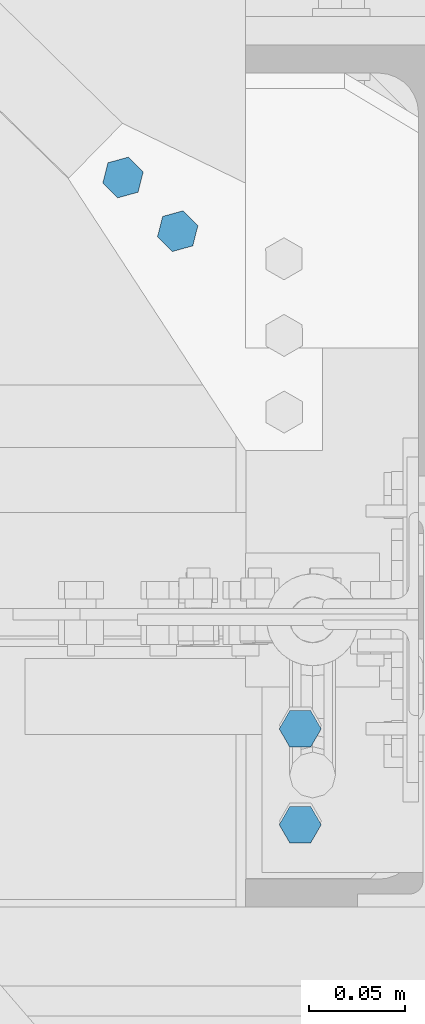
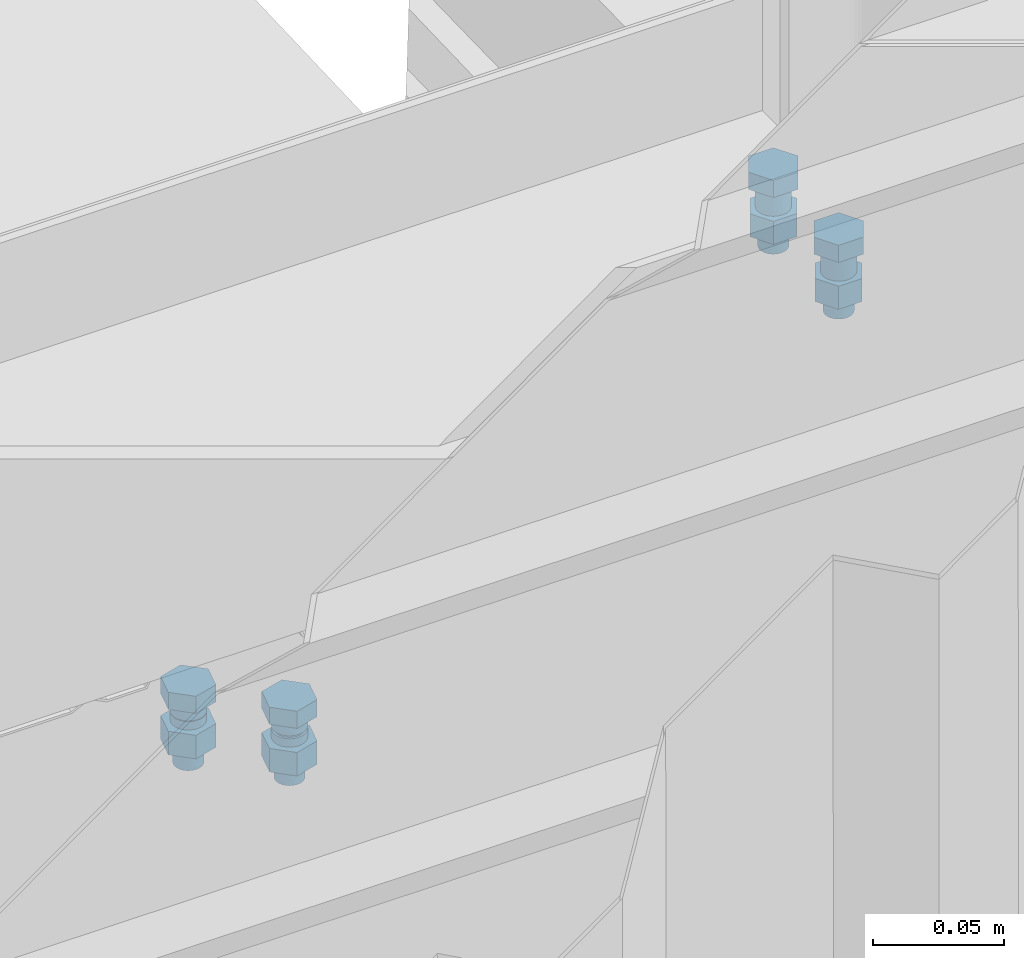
# One storey, part 20 of 21: 3 mechanical fasteners.
"""IFC2X3 building model written with IfcOpenShell, lengths in millimetres."""

from ifc_helpers import new_model, si_unit, frame, origin_with_axes, place, context, project, spatial, faceted_brep, element, save


model = new_model("IFC2X3")

# Units and contexts
model_context_1 = context("Model", 3, precision=1e-05, world=origin_with_axes(), identifier="Body")
model_context_2 = context("Model", 3, precision=1e-05, world=origin_with_axes())
ifc_project = project(units=[si_unit("LENGTHUNIT", "METRE", prefix="MILLI"), si_unit("AREAUNIT", "SQUARE_METRE"), si_unit("VOLUMEUNIT", "CUBIC_METRE"), si_unit("MASSUNIT", "GRAM", prefix="KILO"), si_unit("TIMEUNIT", "SECOND"), si_unit("PLANEANGLEUNIT", "RADIAN"), si_unit("SOLIDANGLEUNIT", "STERADIAN"), si_unit("THERMODYNAMICTEMPERATUREUNIT", "DEGREE_CELSIUS"), si_unit("LUMINOUSINTENSITYUNIT", "LUMEN")], contexts=[model_context_1, model_context_2])

# Site, building, storey
site_placement = place(None, origin_with_axes())
site = spatial("IfcSite", under=ifc_project, at=site_placement, Name="Undefined", CompositionType="ELEMENT")
building_placement = place(site_placement, origin_with_axes())
building = spatial("IfcBuilding", under=site, at=building_placement, Name="Undefined", CompositionType="ELEMENT")
storey_placement = place(building_placement, origin_with_axes())
storey = spatial("IfcBuildingStorey", under=building, at=storey_placement, Name="Undefined", CompositionType="ELEMENT")

# Mechanical fasteners
mechanical_fastener_1_placement = place(storey_placement, frame((-66.45069, -156.90818, 5894.0172), z_axis=(-6.2954093e-15, 1.0, 5.4700004e-05), x_axis=(1.0, 0.0, 0.0)))
element("IfcMechanicalFastener", 1, at=mechanical_fastener_1_placement, inside=storey, Name="Bolt assembly", NominalDiameter=12.0, NominalLength=30.0, context=model_context_1, shape_type="Brep", body=[
    faceted_brep([(10.969655, -17.533323, -25.0), (5.4848276, -17.533323, -15.5), (-5.4848276, -17.533323, -15.5), (-10.969655, -17.533323, -25.0), (-5.4848276, -17.533323, -34.5), (5.4848276, -17.533323, -34.5), (5.4848276, -9.5333232, -34.5), (-5.4848276, -9.5333232, -34.5), (-10.969655, -9.5333232, -25.0), (-5.4848276, -9.5333232, -15.5), (5.4848276, -9.5333232, -15.5), (10.969655, -9.5333232, -25.0), (6.0, -9.5333232, -25.0), (5.795555, -9.5333232, -23.447086), (5.1961524, -9.5333232, -22.0), (4.2426407, -9.5333232, -20.757359), (3.0, -9.5333232, -19.803848), (1.5529143, -9.5333232, -19.204445), (-6.2180159e-13, -9.5333232, -19.0), (-1.5529143, -9.5333232, -19.204445), (-3.0, -9.5333232, -19.803848), (-4.2426407, -9.5333232, -20.757359), (-5.1961524, -9.5333232, -22.0), (-5.795555, -9.5333232, -23.447086), (-6.0, -9.5333232, -25.0), (-5.795555, -9.5333232, -26.552914), (-5.1961524, -9.5333232, -28.0), (-4.2426407, -9.5333232, -29.242641), (-3.0, -9.5333232, -30.196152), (-1.5529143, -9.5333232, -30.795555), (1.8587434e-12, -9.5333232, -31.0), (1.5529143, -9.5333232, -30.795555), (3.0, -9.5333232, -30.196152), (4.2426407, -9.5333232, -29.242641), (5.1961524, -9.5333232, -28.0), (5.795555, -9.5333232, -26.552914), (5.795555, 20.466677, -26.552914), (5.1961524, 20.466677, -28.0), (4.2426407, 20.466677, -29.242641), (3.0, 20.466677, -30.196152), (1.5529143, 20.466677, -30.795555), (1.8587434e-12, 20.466677, -31.0), (-1.5529143, 20.466677, -30.795555), (-3.0, 20.466677, -30.196152), (-4.2426407, 20.466677, -29.242641), (-5.1961524, 20.466677, -28.0), (-5.795555, 20.466677, -26.552914), (-6.0, 20.466677, -25.0), (-5.795555, 20.466677, -23.447086), (-5.1961524, 20.466677, -22.0), (-4.2426407, 20.466677, -20.757359), (-3.0, 20.466677, -19.803848), (-1.5529143, 20.466677, -19.204445), (-6.2180159e-13, 20.466677, -19.0), (1.5529143, 20.466677, -19.204445), (3.0, 20.466677, -19.803848), (4.2426407, 20.466677, -20.757359), (5.1961524, 20.466677, -22.0), (5.795555, 20.466677, -23.447086), (6.0, 20.466677, -25.0), (10.392305, 1.9994325, -25.0), (5.1961524, 1.9994325, -16.0), (-5.1961524, 1.9994325, -16.0), (-10.392305, 1.9994325, -25.0), (-5.1961524, 1.9994325, -34.0), (5.1961524, 1.9994325, -34.0), (5.1961524, 12.799433, -34.0), (-5.1961524, 12.799433, -34.0), (-10.392305, 12.799433, -25.0), (-5.1961524, 12.799433, -16.0), (5.1961524, 12.799433, -16.0), (10.392305, 12.799433, -25.0), (10.969655, -17.533323, 25.0), (5.4848276, -17.533323, 34.5), (-5.4848276, -17.533323, 34.5), (-10.969655, -17.533323, 25.0), (-5.4848276, -17.533323, 15.5), (5.4848276, -17.533323, 15.5), (5.4848276, -9.5333232, 15.5), (-5.4848276, -9.5333232, 15.5), (-10.969655, -9.5333232, 25.0), (-5.4848276, -9.5333232, 34.5), (5.4848276, -9.5333232, 34.5), (10.969655, -9.5333232, 25.0), (6.0, -9.5333232, 25.0), (5.795555, -9.5333232, 26.552914), (5.1961524, -9.5333232, 28.0), (4.2426407, -9.5333232, 29.242641), (3.0, -9.5333232, 30.196152), (1.5529143, -9.5333232, 30.795555), (-6.2180159e-13, -9.5333232, 31.0), (-1.5529143, -9.5333232, 30.795555), (-3.0, -9.5333232, 30.196152), (-4.2426407, -9.5333232, 29.242641), (-5.1961524, -9.5333232, 28.0), (-5.795555, -9.5333232, 26.552914), (-6.0, -9.5333232, 25.0), (-5.795555, -9.5333232, 23.447086), (-5.1961524, -9.5333232, 22.0), (-4.2426407, -9.5333232, 20.757359), (-3.0, -9.5333232, 19.803848), (-1.5529143, -9.5333232, 19.204445), (1.8587434e-12, -9.5333232, 19.0), (1.5529143, -9.5333232, 19.204445), (3.0, -9.5333232, 19.803848), (4.2426407, -9.5333232, 20.757359), (5.1961524, -9.5333232, 22.0), (5.795555, -9.5333232, 23.447086), (5.795555, 20.466677, 23.447086), (5.1961524, 20.466677, 22.0), (4.2426407, 20.466677, 20.757359), (3.0, 20.466677, 19.803848), (1.5529143, 20.466677, 19.204445), (1.8587434e-12, 20.466677, 19.0), (-1.5529143, 20.466677, 19.204445), (-3.0, 20.466677, 19.803848), (-4.2426407, 20.466677, 20.757359), (-5.1961524, 20.466677, 22.0), (-5.795555, 20.466677, 23.447086), (-6.0, 20.466677, 25.0), (-5.795555, 20.466677, 26.552914), (-5.1961524, 20.466677, 28.0), (-4.2426407, 20.466677, 29.242641), (-3.0, 20.466677, 30.196152), (-1.5529143, 20.466677, 30.795555), (-6.2180159e-13, 20.466677, 31.0), (1.5529143, 20.466677, 30.795555), (3.0, 20.466677, 30.196152), (4.2426407, 20.466677, 29.242641), (5.1961524, 20.466677, 28.0), (5.795555, 20.466677, 26.552914), (6.0, 20.466677, 25.0), (10.392305, 1.9994325, 25.0), (5.1961524, 1.9994325, 34.0), (-5.1961524, 1.9994325, 34.0), (-10.392305, 1.9994325, 25.0), (-5.1961524, 1.9994325, 16.0), (5.1961524, 1.9994325, 16.0), (5.1961524, 12.799433, 16.0), (-5.1961524, 12.799433, 16.0), (-10.392305, 12.799433, 25.0), (-5.1961524, 12.799433, 34.0), (5.1961524, 12.799433, 34.0), (10.392305, 12.799433, 25.0)], [[[0, 1, 2, 3, 4, 5]], [[6, 7, 8, 9, 10, 11]], [[0, 11, 10, 1]], [[1, 10, 9, 2]], [[2, 9, 8, 3]], [[3, 8, 7, 4]], [[4, 7, 6, 5]], [[5, 6, 11, 0]], [[12, 13, 14, 15, 16, 17, 18, 19, 20, 21, 22, 23, 24, 25, 26, 27, 28, 29, 30, 31, 32, 33, 34, 35]], [[36, 37, 38, 39, 40, 41, 42, 43, 44, 45, 46, 47, 48, 49, 50, 51, 52, 53, 54, 55, 56, 57, 58, 59]], [[12, 59, 58, 13]], [[13, 58, 57, 14]], [[14, 57, 56, 15]], [[15, 56, 55, 16]], [[16, 55, 54, 17]], [[17, 54, 53, 18]], [[18, 53, 52, 19]], [[19, 52, 51, 20]], [[20, 51, 50, 21]], [[21, 50, 49, 22]], [[22, 49, 48, 23]], [[23, 48, 47, 24]], [[24, 47, 46, 25]], [[25, 46, 45, 26]], [[26, 45, 44, 27]], [[27, 44, 43, 28]], [[28, 43, 42, 29]], [[29, 42, 41, 30]], [[30, 41, 40, 31]], [[31, 40, 39, 32]], [[32, 39, 38, 33]], [[33, 38, 37, 34]], [[34, 37, 36, 35]], [[35, 36, 59, 12]], [[60, 61, 62, 63, 64, 65]], [[66, 67, 68, 69, 70, 71]], [[60, 71, 70, 61]], [[61, 70, 69, 62]], [[62, 69, 68, 63]], [[63, 68, 67, 64]], [[64, 67, 66, 65]], [[65, 66, 71, 60]], [[72, 73, 74, 75, 76, 77]], [[78, 79, 80, 81, 82, 83]], [[72, 83, 82, 73]], [[73, 82, 81, 74]], [[74, 81, 80, 75]], [[75, 80, 79, 76]], [[76, 79, 78, 77]], [[77, 78, 83, 72]], [[84, 85, 86, 87, 88, 89, 90, 91, 92, 93, 94, 95, 96, 97, 98, 99, 100, 101, 102, 103, 104, 105, 106, 107]], [[108, 109, 110, 111, 112, 113, 114, 115, 116, 117, 118, 119, 120, 121, 122, 123, 124, 125, 126, 127, 128, 129, 130, 131]], [[84, 131, 130, 85]], [[85, 130, 129, 86]], [[86, 129, 128, 87]], [[87, 128, 127, 88]], [[88, 127, 126, 89]], [[89, 126, 125, 90]], [[90, 125, 124, 91]], [[91, 124, 123, 92]], [[92, 123, 122, 93]], [[93, 122, 121, 94]], [[94, 121, 120, 95]], [[95, 120, 119, 96]], [[96, 119, 118, 97]], [[97, 118, 117, 98]], [[98, 117, 116, 99]], [[99, 116, 115, 100]], [[100, 115, 114, 101]], [[101, 114, 113, 102]], [[102, 113, 112, 103]], [[103, 112, 111, 104]], [[104, 111, 110, 105]], [[105, 110, 109, 106]], [[106, 109, 108, 107]], [[107, 108, 131, 84]], [[132, 133, 134, 135, 136, 137]], [[138, 139, 140, 141, 142, 143]], [[132, 143, 142, 133]], [[133, 142, 141, 134]], [[134, 141, 140, 135]], [[135, 140, 139, 136]], [[136, 139, 138, 137]], [[137, 138, 143, 132]]]),
    faceted_brep([(7.0, -5.9005675, -25.0), (6.7614808, -5.9005675, -23.188267), (6.0621778, -5.9005675, -21.5), (4.9497475, -5.9005675, -20.050253), (3.5, -5.9005675, -18.937822), (1.8117333, -5.9005675, -18.238519), (-7.2543519e-13, -5.9005675, -18.0), (-1.8117333, -5.9005675, -18.238519), (-3.5, -5.9005675, -18.937822), (-4.9497475, -5.9005675, -20.050253), (-6.0621778, -5.9005675, -21.5), (-6.7614808, -5.9005675, -23.188267), (-7.0, -5.9005675, -25.0), (-6.7614808, -5.9005675, -26.811733), (-6.0621778, -5.9005675, -28.5), (-4.9497475, -5.9005675, -29.949747), (-3.5, -5.9005675, -31.062178), (-1.8117333, -5.9005675, -31.761481), (2.168534e-12, -5.9005675, -32.0), (1.8117333, -5.9005675, -31.761481), (3.5, -5.9005675, -31.062178), (4.9497475, -5.9005675, -29.949747), (6.0621778, -5.9005675, -28.5), (6.7614808, -5.9005675, -26.811733), (6.7614808, 2.0994325, -26.811733), (6.0621778, 2.0994325, -28.5), (4.9497475, 2.0994325, -29.949747), (3.5, 2.0994325, -31.062178), (1.8117333, 2.0994325, -31.761481), (2.168534e-12, 2.0994325, -32.0), (-1.8117333, 2.0994325, -31.761481), (-3.5, 2.0994325, -31.062178), (-4.9497475, 2.0994325, -29.949747), (-6.0621778, 2.0994325, -28.5), (-6.7614808, 2.0994325, -26.811733), (-7.0, 2.0994325, -25.0), (-6.7614808, 2.0994325, -23.188267), (-6.0621778, 2.0994325, -21.5), (-4.9497475, 2.0994325, -20.050253), (-3.5, 2.0994325, -18.937822), (-1.8117333, 2.0994325, -18.238519), (-7.2543519e-13, 2.0994325, -18.0), (1.8117333, 2.0994325, -18.238519), (3.5, 2.0994325, -18.937822), (4.9497475, 2.0994325, -20.050253), (6.0621778, 2.0994325, -21.5), (6.7614808, 2.0994325, -23.188267), (7.0, 2.0994325, -25.0), (7.0, -9.6333232, -25.0), (6.7614808, -9.6333232, -23.188267), (6.0621778, -9.6333232, -21.5), (4.9497475, -9.6333232, -20.050253), (3.5, -9.6333232, -18.937822), (1.8117333, -9.6333232, -18.238519), (-7.2543519e-13, -9.6333232, -18.0), (-1.8117333, -9.6333232, -18.238519), (-3.5, -9.6333232, -18.937822), (-4.9497475, -9.6333232, -20.050253), (-6.0621778, -9.6333232, -21.5), (-6.7614808, -9.6333232, -23.188267), (-7.0, -9.6333232, -25.0), (-6.7614808, -9.6333232, -26.811733), (-6.0621778, -9.6333232, -28.5), (-4.9497475, -9.6333232, -29.949747), (-3.5, -9.6333232, -31.062178), (-1.8117333, -9.6333232, -31.761481), (2.168534e-12, -9.6333232, -32.0), (1.8117333, -9.6333232, -31.761481), (3.5, -9.6333232, -31.062178), (4.9497475, -9.6333232, -29.949747), (6.0621778, -9.6333232, -28.5), (6.7614808, -9.6333232, -26.811733), (6.7614808, -5.5333232, -26.811733), (6.0621778, -5.5333232, -28.5), (4.9497475, -5.5333232, -29.949747), (3.5, -5.5333232, -31.062178), (1.8117333, -5.5333232, -31.761481), (2.168534e-12, -5.5333232, -32.0), (-1.8117333, -5.5333232, -31.761481), (-3.5, -5.5333232, -31.062178), (-4.9497475, -5.5333232, -29.949747), (-6.0621778, -5.5333232, -28.5), (-6.7614808, -5.5333232, -26.811733), (-7.0, -5.5333232, -25.0), (-6.7614808, -5.5333232, -23.188267), (-6.0621778, -5.5333232, -21.5), (-4.9497475, -5.5333232, -20.050253), (-3.5, -5.5333232, -18.937822), (-1.8117333, -5.5333232, -18.238519), (-7.2543519e-13, -5.5333232, -18.0), (1.8117333, -5.5333232, -18.238519), (3.5, -5.5333232, -18.937822), (4.9497475, -5.5333232, -20.050253), (6.0621778, -5.5333232, -21.5), (6.7614808, -5.5333232, -23.188267), (7.0, -5.5333232, -25.0), (7.0, -5.9005675, 25.0), (6.7614808, -5.9005675, 26.811733), (6.0621778, -5.9005675, 28.5), (4.9497475, -5.9005675, 29.949747), (3.5, -5.9005675, 31.062178), (1.8117333, -5.9005675, 31.761481), (-7.2543519e-13, -5.9005675, 32.0), (-1.8117333, -5.9005675, 31.761481), (-3.5, -5.9005675, 31.062178), (-4.9497475, -5.9005675, 29.949747), (-6.0621778, -5.9005675, 28.5), (-6.7614808, -5.9005675, 26.811733), (-7.0, -5.9005675, 25.0), (-6.7614808, -5.9005675, 23.188267), (-6.0621778, -5.9005675, 21.5), (-4.9497475, -5.9005675, 20.050253), (-3.5, -5.9005675, 18.937822), (-1.8117333, -5.9005675, 18.238519), (2.168534e-12, -5.9005675, 18.0), (1.8117333, -5.9005675, 18.238519), (3.5, -5.9005675, 18.937822), (4.9497475, -5.9005675, 20.050253), (6.0621778, -5.9005675, 21.5), (6.7614808, -5.9005675, 23.188267), (6.7614808, 2.0994325, 23.188267), (6.0621778, 2.0994325, 21.5), (4.9497475, 2.0994325, 20.050253), (3.5, 2.0994325, 18.937822), (1.8117333, 2.0994325, 18.238519), (2.168534e-12, 2.0994325, 18.0), (-1.8117333, 2.0994325, 18.238519), (-3.5, 2.0994325, 18.937822), (-4.9497475, 2.0994325, 20.050253), (-6.0621778, 2.0994325, 21.5), (-6.7614808, 2.0994325, 23.188267), (-7.0, 2.0994325, 25.0), (-6.7614808, 2.0994325, 26.811733), (-6.0621778, 2.0994325, 28.5), (-4.9497475, 2.0994325, 29.949747), (-3.5, 2.0994325, 31.062178), (-1.8117333, 2.0994325, 31.761481), (-7.2543519e-13, 2.0994325, 32.0), (1.8117333, 2.0994325, 31.761481), (3.5, 2.0994325, 31.062178), (4.9497475, 2.0994325, 29.949747), (6.0621778, 2.0994325, 28.5), (6.7614808, 2.0994325, 26.811733), (7.0, 2.0994325, 25.0), (7.0, -9.6333232, 25.0), (6.7614808, -9.6333232, 26.811733), (6.0621778, -9.6333232, 28.5), (4.9497475, -9.6333232, 29.949747), (3.5, -9.6333232, 31.062178), (1.8117333, -9.6333232, 31.761481), (-7.2543519e-13, -9.6333232, 32.0), (-1.8117333, -9.6333232, 31.761481), (-3.5, -9.6333232, 31.062178), (-4.9497475, -9.6333232, 29.949747), (-6.0621778, -9.6333232, 28.5), (-6.7614808, -9.6333232, 26.811733), (-7.0, -9.6333232, 25.0), (-6.7614808, -9.6333232, 23.188267), (-6.0621778, -9.6333232, 21.5), (-4.9497475, -9.6333232, 20.050253), (-3.5, -9.6333232, 18.937822), (-1.8117333, -9.6333232, 18.238519), (2.168534e-12, -9.6333232, 18.0), (1.8117333, -9.6333232, 18.238519), (3.5, -9.6333232, 18.937822), (4.9497475, -9.6333232, 20.050253), (6.0621778, -9.6333232, 21.5), (6.7614808, -9.6333232, 23.188267), (6.7614808, -5.5333232, 23.188267), (6.0621778, -5.5333232, 21.5), (4.9497475, -5.5333232, 20.050253), (3.5, -5.5333232, 18.937822), (1.8117333, -5.5333232, 18.238519), (2.168534e-12, -5.5333232, 18.0), (-1.8117333, -5.5333232, 18.238519), (-3.5, -5.5333232, 18.937822), (-4.9497475, -5.5333232, 20.050253), (-6.0621778, -5.5333232, 21.5), (-6.7614808, -5.5333232, 23.188267), (-7.0, -5.5333232, 25.0), (-6.7614808, -5.5333232, 26.811733), (-6.0621778, -5.5333232, 28.5), (-4.9497475, -5.5333232, 29.949747), (-3.5, -5.5333232, 31.062178), (-1.8117333, -5.5333232, 31.761481), (-7.2543519e-13, -5.5333232, 32.0), (1.8117333, -5.5333232, 31.761481), (3.5, -5.5333232, 31.062178), (4.9497475, -5.5333232, 29.949747), (6.0621778, -5.5333232, 28.5), (6.7614808, -5.5333232, 26.811733), (7.0, -5.5333232, 25.0)], [[[0, 1, 2, 3, 4, 5, 6, 7, 8, 9, 10, 11, 12, 13, 14, 15, 16, 17, 18, 19, 20, 21, 22, 23]], [[24, 25, 26, 27, 28, 29, 30, 31, 32, 33, 34, 35, 36, 37, 38, 39, 40, 41, 42, 43, 44, 45, 46, 47]], [[0, 47, 46, 1]], [[1, 46, 45, 2]], [[2, 45, 44, 3]], [[3, 44, 43, 4]], [[4, 43, 42, 5]], [[5, 42, 41, 6]], [[6, 41, 40, 7]], [[7, 40, 39, 8]], [[8, 39, 38, 9]], [[9, 38, 37, 10]], [[10, 37, 36, 11]], [[11, 36, 35, 12]], [[12, 35, 34, 13]], [[13, 34, 33, 14]], [[14, 33, 32, 15]], [[15, 32, 31, 16]], [[16, 31, 30, 17]], [[17, 30, 29, 18]], [[18, 29, 28, 19]], [[19, 28, 27, 20]], [[20, 27, 26, 21]], [[21, 26, 25, 22]], [[22, 25, 24, 23]], [[23, 24, 47, 0]], [[48, 49, 50, 51, 52, 53, 54, 55, 56, 57, 58, 59, 60, 61, 62, 63, 64, 65, 66, 67, 68, 69, 70, 71]], [[72, 73, 74, 75, 76, 77, 78, 79, 80, 81, 82, 83, 84, 85, 86, 87, 88, 89, 90, 91, 92, 93, 94, 95]], [[48, 95, 94, 49]], [[49, 94, 93, 50]], [[50, 93, 92, 51]], [[51, 92, 91, 52]], [[52, 91, 90, 53]], [[53, 90, 89, 54]], [[54, 89, 88, 55]], [[55, 88, 87, 56]], [[56, 87, 86, 57]], [[57, 86, 85, 58]], [[58, 85, 84, 59]], [[59, 84, 83, 60]], [[60, 83, 82, 61]], [[61, 82, 81, 62]], [[62, 81, 80, 63]], [[63, 80, 79, 64]], [[64, 79, 78, 65]], [[65, 78, 77, 66]], [[66, 77, 76, 67]], [[67, 76, 75, 68]], [[68, 75, 74, 69]], [[69, 74, 73, 70]], [[70, 73, 72, 71]], [[71, 72, 95, 48]], [[96, 97, 98, 99, 100, 101, 102, 103, 104, 105, 106, 107, 108, 109, 110, 111, 112, 113, 114, 115, 116, 117, 118, 119]], [[120, 121, 122, 123, 124, 125, 126, 127, 128, 129, 130, 131, 132, 133, 134, 135, 136, 137, 138, 139, 140, 141, 142, 143]], [[96, 143, 142, 97]], [[97, 142, 141, 98]], [[98, 141, 140, 99]], [[99, 140, 139, 100]], [[100, 139, 138, 101]], [[101, 138, 137, 102]], [[102, 137, 136, 103]], [[103, 136, 135, 104]], [[104, 135, 134, 105]], [[105, 134, 133, 106]], [[106, 133, 132, 107]], [[107, 132, 131, 108]], [[108, 131, 130, 109]], [[109, 130, 129, 110]], [[110, 129, 128, 111]], [[111, 128, 127, 112]], [[112, 127, 126, 113]], [[113, 126, 125, 114]], [[114, 125, 124, 115]], [[115, 124, 123, 116]], [[116, 123, 122, 117]], [[117, 122, 121, 118]], [[118, 121, 120, 119]], [[119, 120, 143, 96]], [[144, 145, 146, 147, 148, 149, 150, 151, 152, 153, 154, 155, 156, 157, 158, 159, 160, 161, 162, 163, 164, 165, 166, 167]], [[168, 169, 170, 171, 172, 173, 174, 175, 176, 177, 178, 179, 180, 181, 182, 183, 184, 185, 186, 187, 188, 189, 190, 191]], [[144, 191, 190, 145]], [[145, 190, 189, 146]], [[146, 189, 188, 147]], [[147, 188, 187, 148]], [[148, 187, 186, 149]], [[149, 186, 185, 150]], [[150, 185, 184, 151]], [[151, 184, 183, 152]], [[152, 183, 182, 153]], [[153, 182, 181, 154]], [[154, 181, 180, 155]], [[155, 180, 179, 156]], [[156, 179, 178, 157]], [[157, 178, 177, 158]], [[158, 177, 176, 159]], [[159, 176, 175, 160]], [[160, 175, 174, 161]], [[161, 174, 173, 162]], [[162, 173, 172, 163]], [[163, 172, 171, 164]], [[164, 171, 170, 165]], [[165, 170, 169, 166]], [[166, 169, 168, 167]], [[167, 168, 191, 144]]]),
])
mechanical_fastener_2_placement = place(storey_placement, frame((-130.39089, 127.86608, 5513.9994), z_axis=(-0.70015999, -0.71398599, 7.1759141e-13), x_axis=(-0.71398599, 0.70015999, -6.3664637e-13)))
element("IfcMechanicalFastener", 2, at=mechanical_fastener_2_placement, inside=storey, Name="Bolt assembly", NominalDiameter=12.0, NominalLength=30.0, context=model_context_1, shape_type="Brep", body=[
    faceted_brep([(10.969655, -14.0, 0.0), (5.4848276, -14.0, 9.5), (-5.4848276, -14.0, 9.5), (-10.969655, -14.0, 0.0), (-5.4848276, -14.0, -9.5), (5.4848276, -14.0, -9.5), (5.4848276, -6.0, -9.5), (-5.4848276, -6.0, -9.5), (-10.969655, -6.0, 0.0), (-5.4848276, -6.0, 9.5), (5.4848276, -6.0, 9.5), (10.969655, -6.0, 0.0), (6.0, -6.0, 0.0), (5.795555, -6.0, 1.5529143), (5.1961524, -6.0, 3.0), (4.2426407, -6.0, 4.2426407), (3.0, -6.0, 5.1961524), (1.5529143, -6.0, 5.795555), (-6.2180159e-13, -6.0, 6.0), (-1.5529143, -6.0, 5.795555), (-3.0, -6.0, 5.1961524), (-4.2426407, -6.0, 4.2426407), (-5.1961524, -6.0, 3.0), (-5.795555, -6.0, 1.5529143), (-6.0, -6.0, -1.2436032e-12), (-5.795555, -6.0, -1.5529143), (-5.1961524, -6.0, -3.0), (-4.2426407, -6.0, -4.2426407), (-3.0, -6.0, -5.1961524), (-1.5529143, -6.0, -5.795555), (1.8587434e-12, -6.0, -6.0), (1.5529143, -6.0, -5.795555), (3.0, -6.0, -5.1961524), (4.2426407, -6.0, -4.2426407), (5.1961524, -6.0, -3.0), (5.795555, -6.0, -1.5529143), (5.795555, 24.0, -1.5529143), (5.1961524, 24.0, -3.0), (4.2426407, 24.0, -4.2426407), (3.0, 24.0, -5.1961524), (1.5529143, 24.0, -5.795555), (1.8587434e-12, 24.0, -6.0), (-1.5529143, 24.0, -5.795555), (-3.0, 24.0, -5.1961524), (-4.2426407, 24.0, -4.2426407), (-5.1961524, 24.0, -3.0), (-5.795555, 24.0, -1.5529143), (-6.0, 24.0, -1.2436032e-12), (-5.795555, 24.0, 1.5529143), (-5.1961524, 24.0, 3.0), (-4.2426407, 24.0, 4.2426407), (-3.0, 24.0, 5.1961524), (-1.5529143, 24.0, 5.795555), (-6.2180159e-13, 24.0, 6.0), (1.5529143, 24.0, 5.795555), (3.0, 24.0, 5.1961524), (4.2426407, 24.0, 4.2426407), (5.1961524, 24.0, 3.0), (5.795555, 24.0, 1.5529143), (6.0, 24.0, 0.0), (10.969655, 5.2672538, 0.0), (5.4848276, 5.2672538, 9.5), (-5.4848276, 5.2672538, 9.5), (-10.969655, 5.2672538, 0.0), (-5.4848276, 5.2672538, -9.5), (5.4848276, 5.2672538, -9.5), (5.4848276, 16.267254, -9.5), (-5.4848276, 16.267254, -9.5), (-10.969655, 16.267254, 0.0), (-5.4848276, 16.267254, 9.5), (5.4848276, 16.267254, 9.5), (10.969655, 16.267254, 0.0)], [[[0, 1, 2, 3, 4, 5]], [[6, 7, 8, 9, 10, 11]], [[0, 11, 10, 1]], [[1, 10, 9, 2]], [[2, 9, 8, 3]], [[3, 8, 7, 4]], [[4, 7, 6, 5]], [[5, 6, 11, 0]], [[12, 13, 14, 15, 16, 17, 18, 19, 20, 21, 22, 23, 24, 25, 26, 27, 28, 29, 30, 31, 32, 33, 34, 35]], [[36, 37, 38, 39, 40, 41, 42, 43, 44, 45, 46, 47, 48, 49, 50, 51, 52, 53, 54, 55, 56, 57, 58, 59]], [[12, 59, 58, 13]], [[13, 58, 57, 14]], [[14, 57, 56, 15]], [[15, 56, 55, 16]], [[16, 55, 54, 17]], [[17, 54, 53, 18]], [[18, 53, 52, 19]], [[19, 52, 51, 20]], [[20, 51, 50, 21]], [[21, 50, 49, 22]], [[22, 49, 48, 23]], [[23, 48, 47, 24]], [[24, 47, 46, 25]], [[25, 46, 45, 26]], [[26, 45, 44, 27]], [[27, 44, 43, 28]], [[28, 43, 42, 29]], [[29, 42, 41, 30]], [[30, 41, 40, 31]], [[31, 40, 39, 32]], [[32, 39, 38, 33]], [[33, 38, 37, 34]], [[34, 37, 36, 35]], [[35, 36, 59, 12]], [[60, 61, 62, 63, 64, 65]], [[66, 67, 68, 69, 70, 71]], [[60, 71, 70, 61]], [[61, 70, 69, 62]], [[62, 69, 68, 63]], [[63, 68, 67, 64]], [[64, 67, 66, 65]], [[65, 66, 71, 60]]]),
    faceted_brep([(7.0, -6.1, 0.0), (6.7614808, -6.1, 1.8117333), (6.0621778, -6.1, 3.5), (4.9497475, -6.1, 4.9497475), (3.5, -6.1, 6.0621778), (1.8117333, -6.1, 6.7614808), (-7.2543519e-13, -6.1, 7.0), (-1.8117333, -6.1, 6.7614808), (-3.5, -6.1, 6.0621778), (-4.9497475, -6.1, 4.9497475), (-6.0621778, -6.1, 3.5), (-6.7614808, -6.1, 1.8117333), (-7.0, -6.1, -1.4508704e-12), (-6.7614808, -6.1, -1.8117333), (-6.0621778, -6.1, -3.5), (-4.9497475, -6.1, -4.9497475), (-3.5, -6.1, -6.0621778), (-1.8117333, -6.1, -6.7614808), (2.168534e-12, -6.1, -7.0), (1.8117333, -6.1, -6.7614808), (3.5, -6.1, -6.0621778), (4.9497475, -6.1, -4.9497475), (6.0621778, -6.1, -3.5), (6.7614808, -6.1, -1.8117333), (6.7614808, 1.2789769e-13, -1.8117333), (6.0621778, 1.2789769e-13, -3.5), (4.9497475, 1.2789769e-13, -4.9497475), (3.5, 1.2789769e-13, -6.0621778), (1.8117333, 1.2789769e-13, -6.7614808), (2.168534e-12, 1.2789769e-13, -7.0), (-1.8117333, 1.2789769e-13, -6.7614808), (-3.5, 1.2789769e-13, -6.0621778), (-4.9497475, 1.2789769e-13, -4.9497475), (-6.0621778, 1.2789769e-13, -3.5), (-6.7614808, 1.2789769e-13, -1.8117333), (-7.0, 1.2789769e-13, -1.4508704e-12), (-6.7614808, 1.2789769e-13, 1.8117333), (-6.0621778, 1.2789769e-13, 3.5), (-4.9497475, 1.2789769e-13, 4.9497475), (-3.5, 1.2789769e-13, 6.0621778), (-1.8117333, 1.2789769e-13, 6.7614808), (-7.2543519e-13, 1.2789769e-13, 7.0), (1.8117333, 1.2789769e-13, 6.7614808), (3.5, 1.2789769e-13, 6.0621778), (4.9497475, 1.2789769e-13, 4.9497475), (6.0621778, 1.2789769e-13, 3.5), (6.7614808, 1.2789769e-13, 1.8117333), (7.0, 1.2789769e-13, 0.0), (7.0, 1.3656643, 0.0), (6.7614808, 1.3656643, 1.8117333), (6.0621778, 1.3656643, 3.5), (4.9497475, 1.3656643, 4.9497475), (3.5, 1.3656643, 6.0621778), (1.8117333, 1.3656643, 6.7614808), (-7.2543519e-13, 1.3656643, 7.0), (-1.8117333, 1.3656643, 6.7614808), (-3.5, 1.3656643, 6.0621778), (-4.9497475, 1.3656643, 4.9497475), (-6.0621778, 1.3656643, 3.5), (-6.7614808, 1.3656643, 1.8117333), (-7.0, 1.3656643, -1.4508704e-12), (-6.7614808, 1.3656643, -1.8117333), (-6.0621778, 1.3656643, -3.5), (-4.9497475, 1.3656643, -4.9497475), (-3.5, 1.3656643, -6.0621778), (-1.8117333, 1.3656643, -6.7614808), (2.168534e-12, 1.3656643, -7.0), (1.8117333, 1.3656643, -6.7614808), (3.5, 1.3656643, -6.0621778), (4.9497475, 1.3656643, -4.9497475), (6.0621778, 1.3656643, -3.5), (6.7614808, 1.3656643, -1.8117333), (6.7614808, 5.3672538, -1.8117333), (6.0621778, 5.3672538, -3.5), (4.9497475, 5.3672538, -4.9497475), (3.5, 5.3672538, -6.0621778), (1.8117333, 5.3672538, -6.7614808), (2.168534e-12, 5.3672538, -7.0), (-1.8117333, 5.3672538, -6.7614808), (-3.5, 5.3672538, -6.0621778), (-4.9497475, 5.3672538, -4.9497475), (-6.0621778, 5.3672538, -3.5), (-6.7614808, 5.3672538, -1.8117333), (-7.0, 5.3672538, -1.4508704e-12), (-6.7614808, 5.3672538, 1.8117333), (-6.0621778, 5.3672538, 3.5), (-4.9497475, 5.3672538, 4.9497475), (-3.5, 5.3672538, 6.0621778), (-1.8117333, 5.3672538, 6.7614808), (-7.2543519e-13, 5.3672538, 7.0), (1.8117333, 5.3672538, 6.7614808), (3.5, 5.3672538, 6.0621778), (4.9497475, 5.3672538, 4.9497475), (6.0621778, 5.3672538, 3.5), (6.7614808, 5.3672538, 1.8117333), (7.0, 5.3672538, 0.0)], [[[0, 1, 2, 3, 4, 5, 6, 7, 8, 9, 10, 11, 12, 13, 14, 15, 16, 17, 18, 19, 20, 21, 22, 23]], [[24, 25, 26, 27, 28, 29, 30, 31, 32, 33, 34, 35, 36, 37, 38, 39, 40, 41, 42, 43, 44, 45, 46, 47]], [[0, 47, 46, 1]], [[1, 46, 45, 2]], [[2, 45, 44, 3]], [[3, 44, 43, 4]], [[4, 43, 42, 5]], [[5, 42, 41, 6]], [[6, 41, 40, 7]], [[7, 40, 39, 8]], [[8, 39, 38, 9]], [[9, 38, 37, 10]], [[10, 37, 36, 11]], [[11, 36, 35, 12]], [[12, 35, 34, 13]], [[13, 34, 33, 14]], [[14, 33, 32, 15]], [[15, 32, 31, 16]], [[16, 31, 30, 17]], [[17, 30, 29, 18]], [[18, 29, 28, 19]], [[19, 28, 27, 20]], [[20, 27, 26, 21]], [[21, 26, 25, 22]], [[22, 25, 24, 23]], [[23, 24, 47, 0]], [[48, 49, 50, 51, 52, 53, 54, 55, 56, 57, 58, 59, 60, 61, 62, 63, 64, 65, 66, 67, 68, 69, 70, 71]], [[72, 73, 74, 75, 76, 77, 78, 79, 80, 81, 82, 83, 84, 85, 86, 87, 88, 89, 90, 91, 92, 93, 94, 95]], [[48, 95, 94, 49]], [[49, 94, 93, 50]], [[50, 93, 92, 51]], [[51, 92, 91, 52]], [[52, 91, 90, 53]], [[53, 90, 89, 54]], [[54, 89, 88, 55]], [[55, 88, 87, 56]], [[56, 87, 86, 57]], [[57, 86, 85, 58]], [[58, 85, 84, 59]], [[59, 84, 83, 60]], [[60, 83, 82, 61]], [[61, 82, 81, 62]], [[62, 81, 80, 63]], [[63, 80, 79, 64]], [[64, 79, 78, 65]], [[65, 78, 77, 66]], [[66, 77, 76, 67]], [[67, 76, 75, 68]], [[68, 75, 74, 69]], [[69, 74, 73, 70]], [[70, 73, 72, 71]], [[71, 72, 95, 48]]]),
])
mechanical_fastener_3_placement = place(storey_placement, frame((-158.95033, 155.87248, 5513.9994), z_axis=(-0.70015999, -0.71398599, 7.1759141e-13), x_axis=(-0.71398599, 0.70015999, -6.3664637e-13)))
element("IfcMechanicalFastener", 3, at=mechanical_fastener_3_placement, inside=storey, Name="Bolt assembly", NominalDiameter=12.0, NominalLength=30.0, context=model_context_1, shape_type="Brep", body=[
    faceted_brep([(10.969655, -14.0, 0.0), (5.4848276, -14.0, 9.5), (-5.4848276, -14.0, 9.5), (-10.969655, -14.0, 0.0), (-5.4848276, -14.0, -9.5), (5.4848276, -14.0, -9.5), (5.4848276, -6.0, -9.5), (-5.4848276, -6.0, -9.5), (-10.969655, -6.0, 0.0), (-5.4848276, -6.0, 9.5), (5.4848276, -6.0, 9.5), (10.969655, -6.0, 0.0), (6.0, -6.0, 0.0), (5.795555, -6.0, 1.5529143), (5.1961524, -6.0, 3.0), (4.2426407, -6.0, 4.2426407), (3.0, -6.0, 5.1961524), (1.5529143, -6.0, 5.795555), (-6.2180159e-13, -6.0, 6.0), (-1.5529143, -6.0, 5.795555), (-3.0, -6.0, 5.1961524), (-4.2426407, -6.0, 4.2426407), (-5.1961524, -6.0, 3.0), (-5.795555, -6.0, 1.5529143), (-6.0, -6.0, -1.2436032e-12), (-5.795555, -6.0, -1.5529143), (-5.1961524, -6.0, -3.0), (-4.2426407, -6.0, -4.2426407), (-3.0, -6.0, -5.1961524), (-1.5529143, -6.0, -5.795555), (1.8587434e-12, -6.0, -6.0), (1.5529143, -6.0, -5.795555), (3.0, -6.0, -5.1961524), (4.2426407, -6.0, -4.2426407), (5.1961524, -6.0, -3.0), (5.795555, -6.0, -1.5529143), (5.795555, 24.0, -1.5529143), (5.1961524, 24.0, -3.0), (4.2426407, 24.0, -4.2426407), (3.0, 24.0, -5.1961524), (1.5529143, 24.0, -5.795555), (1.8587434e-12, 24.0, -6.0), (-1.5529143, 24.0, -5.795555), (-3.0, 24.0, -5.1961524), (-4.2426407, 24.0, -4.2426407), (-5.1961524, 24.0, -3.0), (-5.795555, 24.0, -1.5529143), (-6.0, 24.0, -1.2436032e-12), (-5.795555, 24.0, 1.5529143), (-5.1961524, 24.0, 3.0), (-4.2426407, 24.0, 4.2426407), (-3.0, 24.0, 5.1961524), (-1.5529143, 24.0, 5.795555), (-6.2180159e-13, 24.0, 6.0), (1.5529143, 24.0, 5.795555), (3.0, 24.0, 5.1961524), (4.2426407, 24.0, 4.2426407), (5.1961524, 24.0, 3.0), (5.795555, 24.0, 1.5529143), (6.0, 24.0, 0.0), (10.969655, 4.2302975, 0.0), (5.4848276, 4.2302975, 9.5), (-5.4848276, 4.2302975, 9.5), (-10.969655, 4.2302975, 0.0), (-5.4848276, 4.2302975, -9.5), (5.4848276, 4.2302975, -9.5), (5.4848276, 15.230298, -9.5), (-5.4848276, 15.230298, -9.5), (-10.969655, 15.230298, 0.0), (-5.4848276, 15.230298, 9.5), (5.4848276, 15.230298, 9.5), (10.969655, 15.230298, 0.0)], [[[0, 1, 2, 3, 4, 5]], [[6, 7, 8, 9, 10, 11]], [[0, 11, 10, 1]], [[1, 10, 9, 2]], [[2, 9, 8, 3]], [[3, 8, 7, 4]], [[4, 7, 6, 5]], [[5, 6, 11, 0]], [[12, 13, 14, 15, 16, 17, 18, 19, 20, 21, 22, 23, 24, 25, 26, 27, 28, 29, 30, 31, 32, 33, 34, 35]], [[36, 37, 38, 39, 40, 41, 42, 43, 44, 45, 46, 47, 48, 49, 50, 51, 52, 53, 54, 55, 56, 57, 58, 59]], [[12, 59, 58, 13]], [[13, 58, 57, 14]], [[14, 57, 56, 15]], [[15, 56, 55, 16]], [[16, 55, 54, 17]], [[17, 54, 53, 18]], [[18, 53, 52, 19]], [[19, 52, 51, 20]], [[20, 51, 50, 21]], [[21, 50, 49, 22]], [[22, 49, 48, 23]], [[23, 48, 47, 24]], [[24, 47, 46, 25]], [[25, 46, 45, 26]], [[26, 45, 44, 27]], [[27, 44, 43, 28]], [[28, 43, 42, 29]], [[29, 42, 41, 30]], [[30, 41, 40, 31]], [[31, 40, 39, 32]], [[32, 39, 38, 33]], [[33, 38, 37, 34]], [[34, 37, 36, 35]], [[35, 36, 59, 12]], [[60, 61, 62, 63, 64, 65]], [[66, 67, 68, 69, 70, 71]], [[60, 71, 70, 61]], [[61, 70, 69, 62]], [[62, 69, 68, 63]], [[63, 68, 67, 64]], [[64, 67, 66, 65]], [[65, 66, 71, 60]]]),
    faceted_brep([(7.0, -6.1, 0.0), (6.7614808, -6.1, 1.8117333), (6.0621778, -6.1, 3.5), (4.9497475, -6.1, 4.9497475), (3.5, -6.1, 6.0621778), (1.8117333, -6.1, 6.7614808), (-7.2543519e-13, -6.1, 7.0), (-1.8117333, -6.1, 6.7614808), (-3.5, -6.1, 6.0621778), (-4.9497475, -6.1, 4.9497475), (-6.0621778, -6.1, 3.5), (-6.7614808, -6.1, 1.8117333), (-7.0, -6.1, -1.4508704e-12), (-6.7614808, -6.1, -1.8117333), (-6.0621778, -6.1, -3.5), (-4.9497475, -6.1, -4.9497475), (-3.5, -6.1, -6.0621778), (-1.8117333, -6.1, -6.7614808), (2.168534e-12, -6.1, -7.0), (1.8117333, -6.1, -6.7614808), (3.5, -6.1, -6.0621778), (4.9497475, -6.1, -4.9497475), (6.0621778, -6.1, -3.5), (6.7614808, -6.1, -1.8117333), (6.7614808, 1.2789769e-13, -1.8117333), (6.0621778, 1.2789769e-13, -3.5), (4.9497475, 1.2789769e-13, -4.9497475), (3.5, 1.2789769e-13, -6.0621778), (1.8117333, 1.2789769e-13, -6.7614808), (2.168534e-12, 1.2789769e-13, -7.0), (-1.8117333, 1.2789769e-13, -6.7614808), (-3.5, 1.2789769e-13, -6.0621778), (-4.9497475, 1.2789769e-13, -4.9497475), (-6.0621778, 1.2789769e-13, -3.5), (-6.7614808, 1.2789769e-13, -1.8117333), (-7.0, 1.2789769e-13, -1.4508704e-12), (-6.7614808, 1.2789769e-13, 1.8117333), (-6.0621778, 1.2789769e-13, 3.5), (-4.9497475, 1.2789769e-13, 4.9497475), (-3.5, 1.2789769e-13, 6.0621778), (-1.8117333, 1.2789769e-13, 6.7614808), (-7.2543519e-13, 1.2789769e-13, 7.0), (1.8117333, 1.2789769e-13, 6.7614808), (3.5, 1.2789769e-13, 6.0621778), (4.9497475, 1.2789769e-13, 4.9497475), (6.0621778, 1.2789769e-13, 3.5), (6.7614808, 1.2789769e-13, 1.8117333), (7.0, 1.2789769e-13, 0.0), (7.0, 0.3287081, 0.0), (6.7614808, 0.3287081, 1.8117333), (6.0621778, 0.3287081, 3.5), (4.9497475, 0.3287081, 4.9497475), (3.5, 0.3287081, 6.0621778), (1.8117333, 0.3287081, 6.7614808), (-7.2543519e-13, 0.3287081, 7.0), (-1.8117333, 0.3287081, 6.7614808), (-3.5, 0.3287081, 6.0621778), (-4.9497475, 0.3287081, 4.9497475), (-6.0621778, 0.3287081, 3.5), (-6.7614808, 0.3287081, 1.8117333), (-7.0, 0.3287081, -1.4508704e-12), (-6.7614808, 0.3287081, -1.8117333), (-6.0621778, 0.3287081, -3.5), (-4.9497475, 0.3287081, -4.9497475), (-3.5, 0.3287081, -6.0621778), (-1.8117333, 0.3287081, -6.7614808), (2.168534e-12, 0.3287081, -7.0), (1.8117333, 0.3287081, -6.7614808), (3.5, 0.3287081, -6.0621778), (4.9497475, 0.3287081, -4.9497475), (6.0621778, 0.3287081, -3.5), (6.7614808, 0.3287081, -1.8117333), (6.7614808, 4.3302975, -1.8117333), (6.0621778, 4.3302975, -3.5), (4.9497475, 4.3302975, -4.9497475), (3.5, 4.3302975, -6.0621778), (1.8117333, 4.3302975, -6.7614808), (2.168534e-12, 4.3302975, -7.0), (-1.8117333, 4.3302975, -6.7614808), (-3.5, 4.3302975, -6.0621778), (-4.9497475, 4.3302975, -4.9497475), (-6.0621778, 4.3302975, -3.5), (-6.7614808, 4.3302975, -1.8117333), (-7.0, 4.3302975, -1.4508704e-12), (-6.7614808, 4.3302975, 1.8117333), (-6.0621778, 4.3302975, 3.5), (-4.9497475, 4.3302975, 4.9497475), (-3.5, 4.3302975, 6.0621778), (-1.8117333, 4.3302975, 6.7614808), (-7.2543519e-13, 4.3302975, 7.0), (1.8117333, 4.3302975, 6.7614808), (3.5, 4.3302975, 6.0621778), (4.9497475, 4.3302975, 4.9497475), (6.0621778, 4.3302975, 3.5), (6.7614808, 4.3302975, 1.8117333), (7.0, 4.3302975, 0.0)], [[[0, 1, 2, 3, 4, 5, 6, 7, 8, 9, 10, 11, 12, 13, 14, 15, 16, 17, 18, 19, 20, 21, 22, 23]], [[24, 25, 26, 27, 28, 29, 30, 31, 32, 33, 34, 35, 36, 37, 38, 39, 40, 41, 42, 43, 44, 45, 46, 47]], [[0, 47, 46, 1]], [[1, 46, 45, 2]], [[2, 45, 44, 3]], [[3, 44, 43, 4]], [[4, 43, 42, 5]], [[5, 42, 41, 6]], [[6, 41, 40, 7]], [[7, 40, 39, 8]], [[8, 39, 38, 9]], [[9, 38, 37, 10]], [[10, 37, 36, 11]], [[11, 36, 35, 12]], [[12, 35, 34, 13]], [[13, 34, 33, 14]], [[14, 33, 32, 15]], [[15, 32, 31, 16]], [[16, 31, 30, 17]], [[17, 30, 29, 18]], [[18, 29, 28, 19]], [[19, 28, 27, 20]], [[20, 27, 26, 21]], [[21, 26, 25, 22]], [[22, 25, 24, 23]], [[23, 24, 47, 0]], [[48, 49, 50, 51, 52, 53, 54, 55, 56, 57, 58, 59, 60, 61, 62, 63, 64, 65, 66, 67, 68, 69, 70, 71]], [[72, 73, 74, 75, 76, 77, 78, 79, 80, 81, 82, 83, 84, 85, 86, 87, 88, 89, 90, 91, 92, 93, 94, 95]], [[48, 95, 94, 49]], [[49, 94, 93, 50]], [[50, 93, 92, 51]], [[51, 92, 91, 52]], [[52, 91, 90, 53]], [[53, 90, 89, 54]], [[54, 89, 88, 55]], [[55, 88, 87, 56]], [[56, 87, 86, 57]], [[57, 86, 85, 58]], [[58, 85, 84, 59]], [[59, 84, 83, 60]], [[60, 83, 82, 61]], [[61, 82, 81, 62]], [[62, 81, 80, 63]], [[63, 80, 79, 64]], [[64, 79, 78, 65]], [[65, 78, 77, 66]], [[66, 77, 76, 67]], [[67, 76, 75, 68]], [[68, 75, 74, 69]], [[69, 74, 73, 70]], [[70, 73, 72, 71]], [[71, 72, 95, 48]]]),
])

save(model, "model.ifc")
